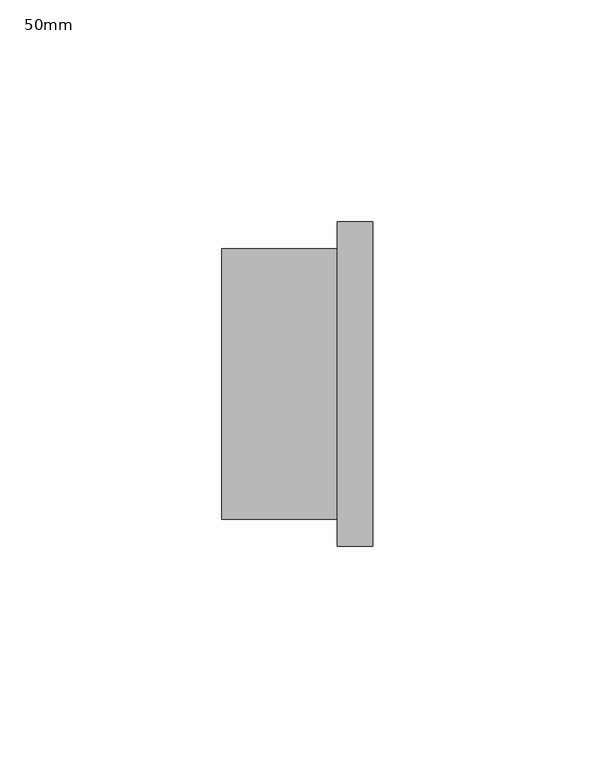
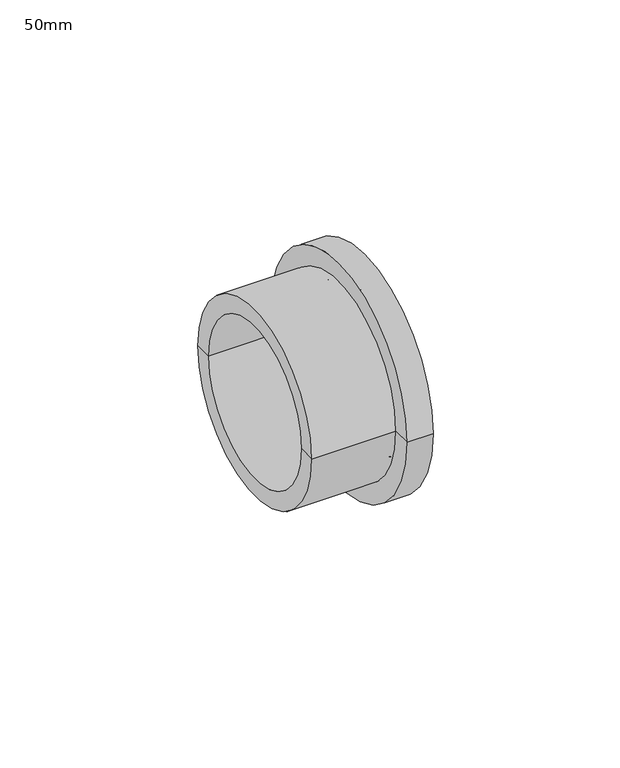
"""IFC4 building model written with IfcOpenShell, lengths in millimetres: pipe fitting geometry, Durapipe_PipeFitting_PVC_StubFlange : 50mm."""

from ifc_helpers import new_model, si_unit, frame, origin, place, context, project, spatial, polyline, circle_curve, source, transform, mapped, element, save
from ifc_brep_helpers import plane_surface, cylinder_surface, revolved_surface, advanced_brep


def pipe_fitting_50mm_277fe24f(model_context):
    return source(origin(), model_context, "Body", "AdvancedBrep", [
        advanced_brep(
        [(17.0, -36.5, 0.0), (17.0, 36.5, 0.0), (17.0, 27.8, 0.0), (17.0, -27.8, 0.0), (17.0, 20.0, 0.0), (17.0, -20.0, 0.0), (17.0, -24.0720779, 0.0), (17.0, 24.0720779, 0.0), (9.0, -36.5, 0.0), (9.0, 36.5, 0.0), (9.0, -30.5, 0.0), (9.0, 30.5, 0.0), (-17.0, -30.5, 0.0), (-17.0, 30.5, 0.0), (-17.0, -25.0, 0.0), (-17.0, 25.0, 0.0), (14.0, 20.0, 0.0), (14.0, -20.0, 0.0), (14.0, -25.0, 0.0), (14.0, 25.0, 0.0), (17.0, 25.3147186, 0.0), (15.5, 24.6933983, 0.0), (15.5, -24.6933983, 0.0), (17.0, -25.3147186, 0.0), (15.5, -25.936039, 0.0), (15.5, 25.936039, 0.0), (17.0, -26.5573593, 0.0), (17.0, 26.5573593, 0.0), (15.5, -27.1786797, 0.0), (15.5, 27.1786797, 0.0)],
        [
            (0, 1, circle_curve(frame((17.0, 0.0, 0.0), z_axis=(1.0, 0.0, 0.0), x_axis=(0.0, 1.0, 0.0)), 36.5)),
            (1, 2),
            (2, 3, circle_curve(frame((17.0, 0.0, 0.0), z_axis=(-1.0, 0.0, 0.0), x_axis=(0.0, -1.0, 0.0)), 27.8)),
            (3, 0),
            (4, 5, circle_curve(frame((17.0, 0.0, 0.0), z_axis=(-1.0, 0.0, 0.0), x_axis=(0.0, 1.0, 0.0)), 20.0)),
            (5, 6),
            (6, 7, circle_curve(frame((17.0, 0.0, 0.0), z_axis=(1.0, 0.0, 0.0), x_axis=(0.0, -1.0, 0.0)), 24.0720779)),
            (7, 4),
            (1, 0, circle_curve(frame((17.0, 0.0, 0.0), z_axis=(1.0, 0.0, 0.0), x_axis=(0.0, 1.0, 0.0)), 36.5)),
            (3, 2, circle_curve(frame((17.0, 0.0, 0.0), z_axis=(-1.0, 0.0, 0.0), x_axis=(0.0, 1.0, 0.0)), 27.8)),
            (5, 4, circle_curve(frame((17.0, 0.0, 0.0), z_axis=(-1.0, 0.0, 0.0), x_axis=(0.0, 1.0, 0.0)), 20.0)),
            (7, 6, circle_curve(frame((17.0, 0.0, 0.0), z_axis=(1.0, 0.0, 0.0), x_axis=(0.0, 1.0, 0.0)), 24.0720779)),
            (0, 8),
            (8, 9, circle_curve(frame((9.0, 0.0, 0.0), z_axis=(1.0, 0.0, 0.0), x_axis=(0.0, 1.0, 0.0)), 36.5)),
            (9, 1),
            (9, 8, circle_curve(frame((9.0, 0.0, 0.0), z_axis=(1.0, 0.0, 0.0), x_axis=(0.0, 1.0, 0.0)), 36.5)),
            (8, 10),
            (10, 11, circle_curve(frame((9.0, 0.0, 0.0), z_axis=(1.0, 0.0, 0.0), x_axis=(0.0, 1.0, 0.0)), 30.5)),
            (11, 9),
            (11, 10, circle_curve(frame((9.0, 0.0, 0.0), z_axis=(1.0, 0.0, 0.0), x_axis=(0.0, 1.0, 0.0)), 30.5)),
            (10, 12),
            (12, 13, circle_curve(frame((-17.0, 0.0, 0.0), z_axis=(1.0, 0.0, 0.0), x_axis=(0.0, 1.0, 0.0)), 30.5)),
            (13, 11),
            (13, 12, circle_curve(frame((-17.0, 0.0, 0.0), z_axis=(1.0, 0.0, 0.0), x_axis=(0.0, 1.0, 0.0)), 30.5)),
            (12, 14),
            (14, 15, circle_curve(frame((-17.0, 0.0, 0.0), z_axis=(1.0, 0.0, 0.0), x_axis=(0.0, 1.0, 0.0)), 25.0)),
            (15, 13),
            (15, 14, circle_curve(frame((-17.0, 0.0, 0.0), z_axis=(1.0, 0.0, 0.0), x_axis=(0.0, 1.0, 0.0)), 25.0)),
            (4, 16),
            (16, 17, circle_curve(frame((14.0, 0.0, 0.0), z_axis=(-1.0, 0.0, 0.0), x_axis=(0.0, 1.0, 0.0)), 20.0)),
            (17, 5),
            (17, 16, circle_curve(frame((14.0, 0.0, 0.0), z_axis=(-1.0, 0.0, 0.0), x_axis=(0.0, 1.0, 0.0)), 20.0)),
            (14, 18),
            (18, 19, circle_curve(frame((14.0, 0.0, 0.0), z_axis=(1.0, 0.0, 0.0), x_axis=(0.0, 1.0, 0.0)), 25.0)),
            (19, 15),
            (19, 18, circle_curve(frame((14.0, 0.0, 0.0), z_axis=(1.0, 0.0, 0.0), x_axis=(0.0, 1.0, 0.0)), 25.0)),
            (18, 17),
            (16, 19),
            (20, 21),
            (21, 22, circle_curve(frame((15.5, 0.0, 0.0), z_axis=(-1.0, 0.0, 0.0), x_axis=(0.0, -1.0, 0.0)), 24.6933983)),
            (22, 23),
            (23, 20, circle_curve(frame((17.0, 0.0, 0.0), z_axis=(1.0, 0.0, 0.0), x_axis=(0.0, -1.0, 0.0)), 25.3147186)),
            (23, 24),
            (24, 25, circle_curve(frame((15.5, 0.0, 0.0), z_axis=(1.0, 0.0, 0.0), x_axis=(0.0, -1.0, 0.0)), 25.936039)),
            (25, 20),
            (24, 26),
            (26, 27, circle_curve(frame((17.0, 0.0, 0.0), z_axis=(1.0, 0.0, 0.0), x_axis=(0.0, -1.0, 0.0)), 26.5573593)),
            (27, 25),
            (26, 28),
            (28, 29, circle_curve(frame((15.5, 0.0, 0.0), z_axis=(1.0, 0.0, 0.0), x_axis=(0.0, -1.0, 0.0)), 27.1786797)),
            (29, 27),
            (28, 3),
            (2, 29),
            (21, 7),
            (6, 22),
            (20, 23, circle_curve(frame((17.0, 0.0, 0.0), z_axis=(1.0, 0.0, 0.0), x_axis=(0.0, 1.0, 0.0)), 25.3147186)),
            (22, 21, circle_curve(frame((15.5, 0.0, 0.0), z_axis=(-1.0, 0.0, 0.0), x_axis=(0.0, 1.0, 0.0)), 24.6933983)),
            (25, 24, circle_curve(frame((15.5, 0.0, 0.0), z_axis=(1.0, 0.0, 0.0), x_axis=(0.0, 1.0, 0.0)), 25.936039)),
            (27, 26, circle_curve(frame((17.0, 0.0, 0.0), z_axis=(1.0, 0.0, 0.0), x_axis=(0.0, 1.0, 0.0)), 26.5573593)),
            (29, 28, circle_curve(frame((15.5, 0.0, 0.0), z_axis=(1.0, 0.0, 0.0), x_axis=(0.0, 1.0, 0.0)), 27.1786797)),
        ],
        [
            plane_surface(frame((17.0, 0.0, 0.0), z_axis=(1.0, 0.0, 0.0), x_axis=(0.0, 1.0, 0.0))),
            cylinder_surface(frame((20.1035546, 0.0, 0.0), z_axis=(-1.0, 0.0, 0.0), x_axis=(0.0, 1.0, 0.0)), 36.5),
            plane_surface(frame((9.0, 0.0, 0.0), z_axis=(-1.0, 0.0, 0.0), x_axis=(0.0, 1.0, 0.0))),
            cylinder_surface(frame((20.1035546, 0.0, 0.0), z_axis=(-1.0, 0.0, 0.0), x_axis=(0.0, 1.0, 0.0)), 30.5),
            plane_surface(frame((-17.0, 0.0, 0.0), z_axis=(-1.0, 0.0, 0.0), x_axis=(0.0, 1.0, 0.0))),
            revolved_surface(polyline([(14.0, 20.0, 0.0), (17.0, 20.0, 0.0)]), (20.1035546, 0.0, 0.0), (-1.0, 0.0, 0.0)),
            revolved_surface(polyline([(-17.0, 25.0, 0.0), (14.0, 25.0, 0.0)]), (-18.8250714, 0.0, 0.0), (-1.0, 0.0, 0.0)),
            plane_surface(frame((14.0, 0.0, 0.0), z_axis=(-1.0, 0.0, 0.0), x_axis=(0.0, 1.0, 0.0))),
            revolved_surface(polyline([(17.0, -25.3147186, 0.0), (15.5, -24.6933983, 0.0)]), (17.0, 0.0, 0.0), (1.0, 0.0, 0.0)),
            revolved_surface(polyline([(15.5, -25.936039, 0.0), (17.0, -25.3147186, 0.0)]), (17.0, 0.0, 0.0), (1.0, 0.0, 0.0)),
            revolved_surface(polyline([(17.0, -26.5573593, 0.0), (15.5, -25.936039, 0.0)]), (17.0, 0.0, 0.0), (1.0, 0.0, 0.0)),
            revolved_surface(polyline([(15.5, -27.1786797, 0.0), (17.0, -26.5573593, 0.0)]), (17.0, 0.0, 0.0), (1.0, 0.0, 0.0)),
            revolved_surface(polyline([(17.0, -27.8, 0.0), (15.5, -27.1786797, 0.0)]), (17.0, 0.0, 0.0), (1.0, 0.0, 0.0)),
            revolved_surface(polyline([(15.5, -24.6933983, 0.0), (17.0, -24.0720779, 0.0)]), (17.0, 0.0, 0.0), (1.0, 0.0, 0.0)),
            revolved_surface(polyline([(17.0, 25.3147186, 0.0), (15.5, 24.6933983, 0.0)]), (17.0, 0.0, 0.0), (1.0, 0.0, 0.0)),
            revolved_surface(polyline([(15.5, 25.936039, 0.0), (17.0, 25.3147186, 0.0)]), (17.0, 0.0, 0.0), (1.0, 0.0, 0.0)),
            revolved_surface(polyline([(17.0, 26.5573593, 0.0), (15.5, 25.936039, 0.0)]), (17.0, 0.0, 0.0), (1.0, 0.0, 0.0)),
            revolved_surface(polyline([(15.5, 27.1786797, 0.0), (17.0, 26.5573593, 0.0)]), (17.0, 0.0, 0.0), (1.0, 0.0, 0.0)),
            revolved_surface(polyline([(17.0, 27.8, 0.0), (15.5, 27.1786797, 0.0)]), (17.0, 0.0, 0.0), (1.0, 0.0, 0.0)),
            revolved_surface(polyline([(15.5, 24.6933983, 0.0), (17.0, 24.0720779, 0.0)]), (17.0, 0.0, 0.0), (1.0, 0.0, 0.0)),
        ],
        [
            (0, [[1, 2, 3, 4]]),
            (0, [[5, 6, 7, 8]]),
            (0, [[9, -4, 10, -2]]),
            (0, [[11, -8, 12, -6]]),
            (1, [[-1, 13, 14, 15]]),
            (1, [[-9, -15, 16, -13]]),
            (2, [[-14, 17, 18, 19]]),
            (2, [[-16, -19, 20, -17]]),
            (3, [[-18, 21, 22, 23]]),
            (3, [[-20, -23, 24, -21]]),
            (4, [[-22, 25, 26, 27]]),
            (4, [[-24, -27, 28, -25]]),
            (5, [[-5, 29, 30, 31]]),
            (5, [[-11, -31, 32, -29]]),
            (6, [[33, 34, 35, -26]]),
            (6, [[-33, -28, -35, 36]]),
            (7, [[-34, 37, -30, 38]]),
            (7, [[-36, -38, -32, -37]]),
            (8, [[39, 40, 41, 42]]),
            (9, [[-42, 43, 44, 45]]),
            (10, [[-44, 46, 47, 48]]),
            (11, [[-47, 49, 50, 51]]),
            (12, [[-50, 52, -3, 53]]),
            (13, [[-40, 54, -7, 55]]),
            (14, [[-39, 56, -41, 57]]),
            (15, [[-45, 58, -43, -56]]),
            (16, [[-48, 59, -46, -58]]),
            (17, [[-51, 60, -49, -59]]),
            (18, [[-53, -10, -52, -60]]),
            (19, [[-54, -57, -55, -12]]),
        ],
    ),
    ])


if __name__ == "__main__":
    model = new_model("IFC4")
    model_context = context("Model", 3, world=origin())
    ifc_project = project(units=[si_unit("LENGTHUNIT", "METRE", prefix="MILLI")], contexts=[model_context])
    site = spatial("IfcSite", under=ifc_project)
    building = spatial("IfcBuilding", under=site)
    placement = place(None, origin())
    pipe_fitting_50mm_shape = pipe_fitting_50mm_277fe24f(model_context)
    element("IfcPipeFitting", 1, ObjectType="Durapipe_PipeFitting_PVC_StubFlange : 50mm", at=placement, inside=building, context=model_context, shape_type="MappedRepresentation", body=[
        mapped(pipe_fitting_50mm_shape, transform((0.0, 0.0, 0.0), x_axis=(1.0, 0.0, 0.0), y_axis=(0.0, 1.0, 0.0), z_axis=(0.0, 0.0, 1.0))),
    ])
    save(model, "model.ifc")
